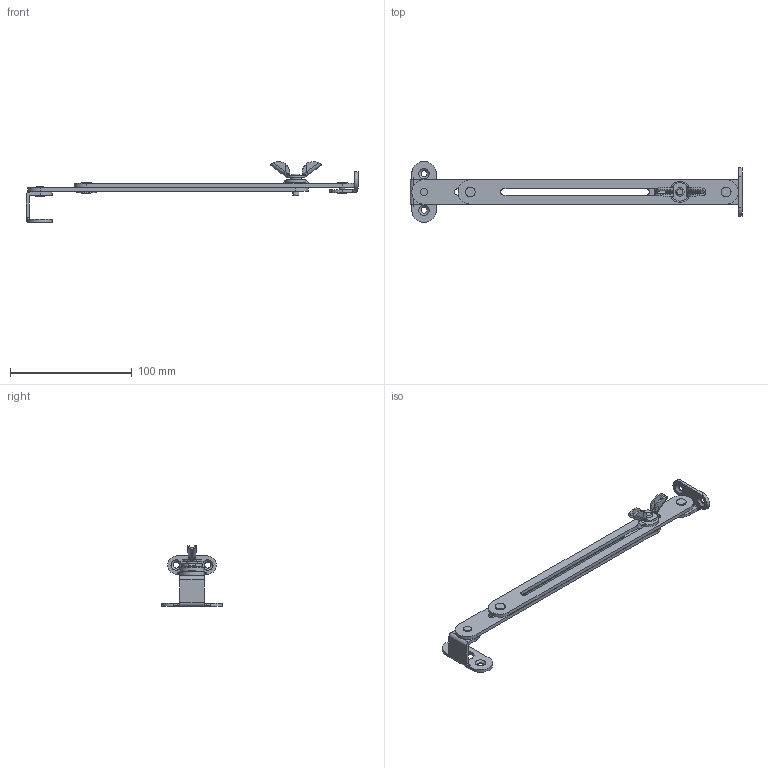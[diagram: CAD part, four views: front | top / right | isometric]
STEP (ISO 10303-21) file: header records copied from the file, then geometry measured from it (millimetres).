
FILE_DESCRIPTION(/* description */ (''),/* implementation_level */ '2;1');
FILE_NAME(/* name */ '\\Nas\db20\SY-9\DR_SY-9.stp',/* time_stamp */ '2018-03-09T17:41:42+09:00',/* author */ ('user'),/* organization */ (''),/* preprocessor_version */ 'ST-DEVELOPER v15.6',/* originating_system */ 'Autodesk Inventor 2015',/* authorisation */ '');
FILE_SCHEMA (('AUTOMOTIVE_DESIGN { 1 0 10303 214 3 1 1 }'));
Length unit declared in the file: millimetre
Products named in the file (5): DR_SY-9-B1; DR_SY-9-B2; DR_SY-9-P1; DR_SY-9-P2; DR_SY-9
Bounding box: 272.5 x 50 x 50 mm (x, y, z)
Volume: 30508.5 mm3; surface area: 28769.5 mm2
Topology: 6 solids, 6 shells, 186 faces, 460 edges, 301 vertices
Faces by surface type: plane 73, cylinder 68, bspline 40, cone 4, torus 1
Full cylindrical faces by diameter (mm): 3 x1, 4 x2, 5 x7, 6 x1, 7.5 x3, 8 x3, 9 x1, 11 x1, 16 x1
Entity records: 6580 total; most frequent: CARTESIAN_POINT 2415, ORIENTED_EDGE 856, DIRECTION 734, EDGE_CURVE 427, VERTEX_POINT 293, AXIS2_PLACEMENT_3D 284, EDGE_LOOP 242, FACE_OUTER_BOUND 186
